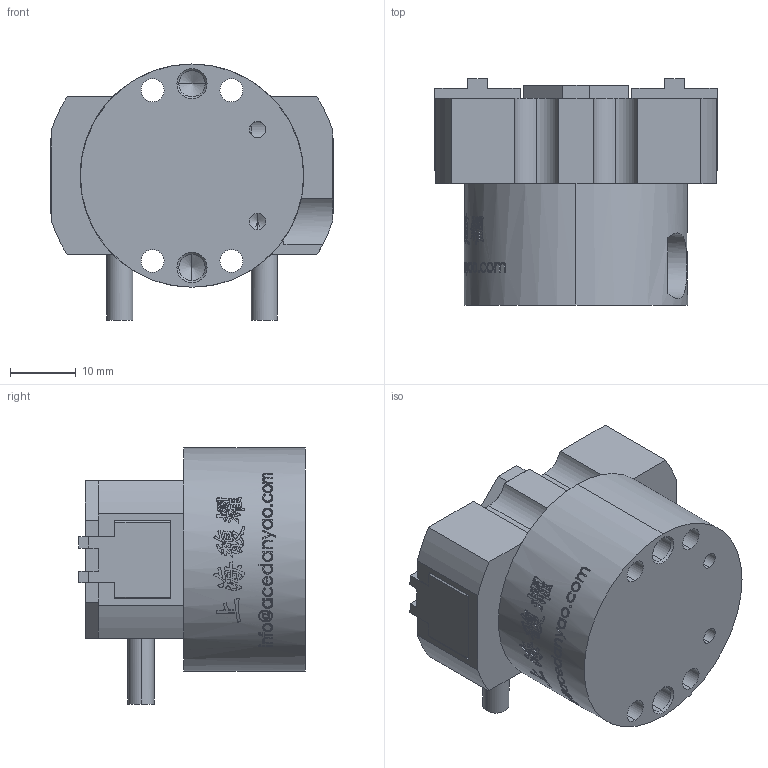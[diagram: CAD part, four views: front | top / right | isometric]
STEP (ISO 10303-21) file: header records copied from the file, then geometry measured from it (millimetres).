
FILE_DESCRIPTION (( 'STEP AP203' ), '1' );
FILE_NAME ('OPM-030-C1-原始檔-組合-W106.04.18.STEP', '2017-04-18T03:08:15', ( 'DanyaoCAD' ), ( '' ), 'SwSTEP 2.0', 'SolidWorks 2016', '' );
FILE_SCHEMA (( 'CONFIG_CONTROL_DESIGN' ));
Products named in the file (3): Corpo; Griffa; OPM-030-C1-原始檔-組合-W106.04.18
Assembly tree (3 placements, depth 2):
  OPM-030-C1-原始檔-組合-W106.04.18
    Corpo
    Griffa  x2
Bounding box: 43 x 34.5 x 39 mm (x, y, z)
Volume: 28472.6 mm3; surface area: 11788.1 mm2
Topology: 3 solids, 3 shells, 975 faces, 2743 edges, 1809 vertices
Faces by surface type: bspline 665, plane 192, cylinder 96, cone 22
Entity records: 73531 total; most frequent: CARTESIAN_POINT 54956, ORIENTED_EDGE 5244, EDGE_CURVE 2622, B_SPLINE_CURVE_WITH_KNOTS 2038, VERTEX_POINT 1741, DIRECTION 1306, EDGE_LOOP 999, FACE_OUTER_BOUND 936
